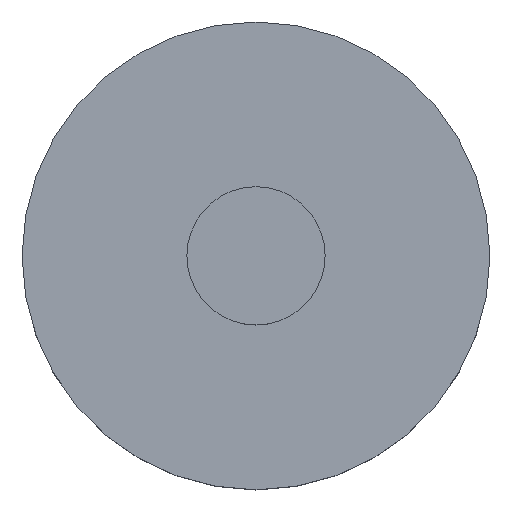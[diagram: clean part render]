
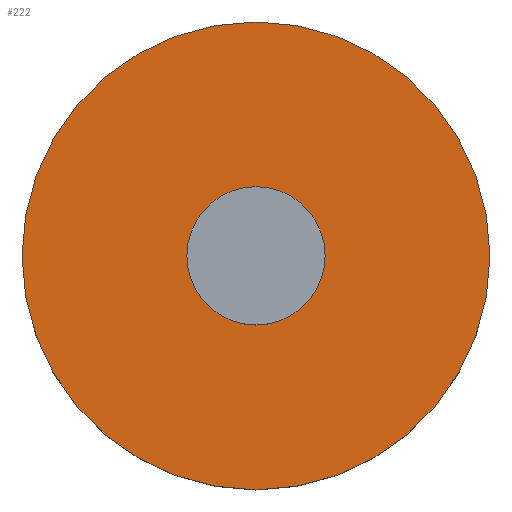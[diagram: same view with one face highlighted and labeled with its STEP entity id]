
A CAD part, top view. The second image highlights one B-rep face of the part: STEP entity #222.
In plain terms, the highlighted planar face has unit normal (0, 0, 1).
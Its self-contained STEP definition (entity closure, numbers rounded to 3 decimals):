
#23 = VERTEX_POINT ( 'NONE', #292 ) ;
#38 = AXIS2_PLACEMENT_3D ( 'NONE', #306, #151, #174 ) ;
#43 = EDGE_CURVE ( 'NONE', #245, #258, #172, .T. ) ;
#54 = ORIENTED_EDGE ( 'NONE', *, *, #180, .F. ) ;
#57 = CARTESIAN_POINT ( 'NONE',  ( -6.5, 0., 5. ) ) ;
#72 = DIRECTION ( 'NONE',  ( 1., 0., 0. ) ) ;
#86 = FACE_OUTER_BOUND ( 'NONE', #255, .T. ) ;
#87 = VERTEX_POINT ( 'NONE', #57 ) ;
#109 = ORIENTED_EDGE ( 'NONE', *, *, #257, .T. ) ;
#132 = ORIENTED_EDGE ( 'NONE', *, *, #253, .F. ) ;
#133 = EDGE_LOOP ( 'NONE', ( #132, #54 ) ) ;
#139 = CIRCLE ( 'NONE', #305, 6.5 ) ;
#151 = DIRECTION ( 'NONE',  ( 0., 0., 1. ) ) ;
#152 = CARTESIAN_POINT ( 'NONE',  ( 0., 0., 5. ) ) ;
#155 = DIRECTION ( 'NONE',  ( 1., 0., 0. ) ) ;
#172 = CIRCLE ( 'NONE', #274, 22. ) ;
#174 = DIRECTION ( 'NONE',  ( 1., 0., 0. ) ) ;
#176 = FACE_BOUND ( 'NONE', #133, .T. ) ;
#178 = CARTESIAN_POINT ( 'NONE',  ( 0., 0., 5. ) ) ;
#180 = EDGE_CURVE ( 'NONE', #87, #23, #139, .T. ) ;
#181 = CIRCLE ( 'NONE', #269, 6.5 ) ;
#186 = CARTESIAN_POINT ( 'NONE',  ( 0., 0., 5. ) ) ;
#198 = DIRECTION ( 'NONE',  ( 0., 0., 1. ) ) ;
#200 = AXIS2_PLACEMENT_3D ( 'NONE', #228, #254, #72 ) ;
#210 = DIRECTION ( 'NONE',  ( 0., 0., 1. ) ) ;
#222 = ADVANCED_FACE ( 'NONE', ( #176, #86 ), #275, .T. ) ;
#228 = CARTESIAN_POINT ( 'NONE',  ( 0., 0., 5. ) ) ;
#245 = VERTEX_POINT ( 'NONE', #252 ) ;
#246 = DIRECTION ( 'NONE',  ( 1., 0., 0. ) ) ;
#252 = CARTESIAN_POINT ( 'NONE',  ( 22., 0., 5. ) ) ;
#253 = EDGE_CURVE ( 'NONE', #23, #87, #181, .T. ) ;
#254 = DIRECTION ( 'NONE',  ( 0., 0., 1. ) ) ;
#255 = EDGE_LOOP ( 'NONE', ( #287, #109 ) ) ;
#257 = EDGE_CURVE ( 'NONE', #258, #245, #330, .T. ) ;
#258 = VERTEX_POINT ( 'NONE', #334 ) ;
#267 = DIRECTION ( 'NONE',  ( 1., 0., 0. ) ) ;
#269 = AXIS2_PLACEMENT_3D ( 'NONE', #178, #310, #155 ) ;
#274 = AXIS2_PLACEMENT_3D ( 'NONE', #186, #210, #267 ) ;
#275 = PLANE ( 'NONE',  #38 ) ;
#287 = ORIENTED_EDGE ( 'NONE', *, *, #43, .T. ) ;
#292 = CARTESIAN_POINT ( 'NONE',  ( 6.5, 0., 5. ) ) ;
#305 = AXIS2_PLACEMENT_3D ( 'NONE', #152, #198, #246 ) ;
#306 = CARTESIAN_POINT ( 'NONE',  ( 0., 0., 5. ) ) ;
#310 = DIRECTION ( 'NONE',  ( 0., 0., 1. ) ) ;
#330 = CIRCLE ( 'NONE', #200, 22. ) ;
#334 = CARTESIAN_POINT ( 'NONE',  ( -22., 0., 5. ) ) ;
